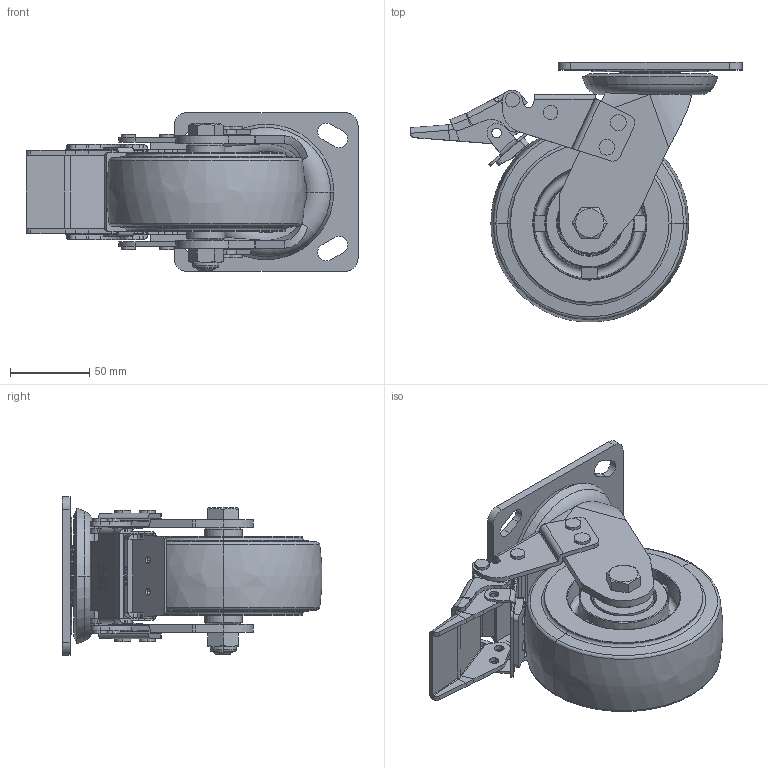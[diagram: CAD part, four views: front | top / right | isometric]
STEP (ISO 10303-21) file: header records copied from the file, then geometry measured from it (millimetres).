
FILE_DESCRIPTION((''),'2;1');
FILE_NAME('S75725L_ASM','2026-07-29T',('Lenovo'),(''),'PRO/ENGINEER BY PARAMETRIC TECHNOLOGY CORPORATION, 2010280','PRO/ENGINEER BY PARAMETRIC TECHNOLOGY CORPORATION, 2010280','');
FILE_SCHEMA(('CONFIG_CONTROL_DESIGN'));
Length unit declared in the file: millimetre
Products named in the file (16): S7505-355; S7570-201; S7500-211; 735-986; 6203; 700-67; 700-54; 735-86_ASM; 700-33; 700-34; C7415-525; 700-142; 700-141; C7435-401; 700-614; S75725L_ASM
Assembly tree (17 placements, depth 3):
  S75725L_ASM
    S7505-355
    S7570-201
    S7500-211
    735-86_ASM
      735-986
      6203  x2
      700-67  x2
      700-54
    700-33
    700-34
    C7415-525
    700-142
    700-141
    C7435-401
    700-614
Bounding box: 209.34 x 163.83 x 100 mm (x, y, z)
Volume: 719671.2 mm3; surface area: 200288.3 mm2
Topology: 43 solids, 43 shells, 930 faces, 2296 edges, 1394 vertices
Faces by surface type: plane 433, cylinder 265, torus 90, cone 56, sphere 48, bspline 38
Entity records: 27662 total; most frequent: CARTESIAN_POINT 6933, DIRECTION 4308, ORIENTED_EDGE 4184, EDGE_CURVE 2092, AXIS2_PLACEMENT_3D 1559, VERTEX_POINT 1320, VECTOR 1190, LINE 1190
